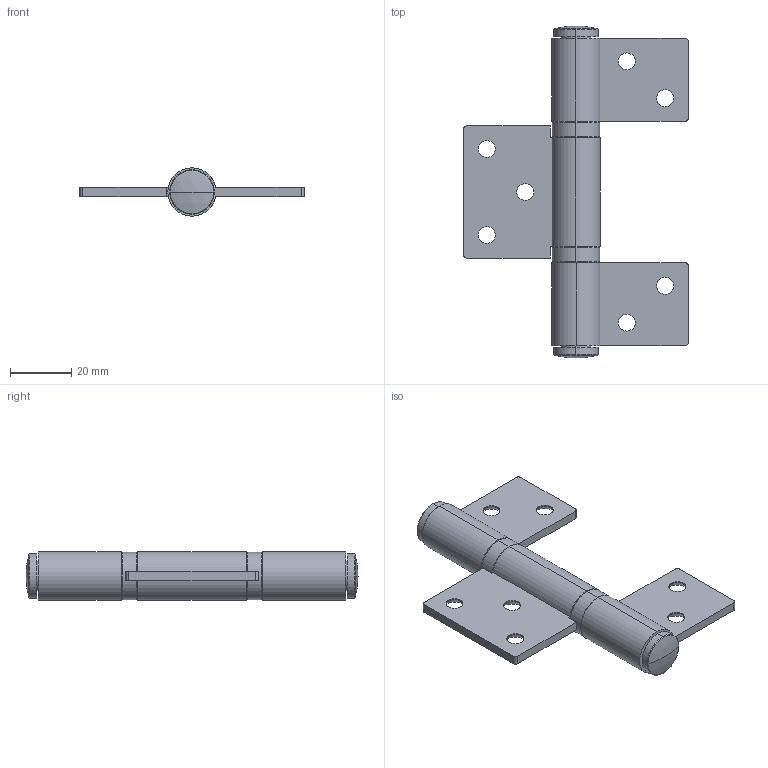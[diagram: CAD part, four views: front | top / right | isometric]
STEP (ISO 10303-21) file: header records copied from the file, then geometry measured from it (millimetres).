
FILE_DESCRIPTION (( 'STEP AP214' ), '1' );
FILE_NAME ('E3 Straight Hinge - Open.STEP', '2024-06-26T04:16:27', ( '' ), ( '' ), 'SwSTEP 2.0', 'SolidWorks 2023', '' );
FILE_SCHEMA (( 'AUTOMOTIVE_DESIGN' ));
Length unit declared in the file: millimetre
Products named in the file (5): E3 Straight Flap Outer B^E3 Straight Hinge; E3 Straight Hinge - Open; E3 Hinge Pin^E3 Straight Hinge; E3 Straight Flap Outer A^E3 Straight Hinge; E3 Straight flap middle^E3 Straight Hinge
Assembly tree (4 placements, depth 2):
  E3 Straight Hinge - Open
    E3 Hinge Pin^E3 Straight Hinge
    E3 Straight Flap Outer B^E3 Straight Hinge
    E3 Straight flap middle^E3 Straight Hinge
    E3 Straight Flap Outer A^E3 Straight Hinge
Bounding box: 73 x 108 x 15.7 mm (x, y, z)
Volume: 27480.2 mm3; surface area: 18300.3 mm2
Topology: 4 solids, 4 shells, 104 faces, 246 edges, 156 vertices
Faces by surface type: cylinder 49, plane 25, cone 22, torus 4, sphere 4
Entity records: 3228 total; most frequent: DIRECTION 604, CARTESIAN_POINT 513, ORIENTED_EDGE 492, AXIS2_PLACEMENT_3D 247, EDGE_CURVE 246, VERTEX_POINT 156, CIRCLE 136, EDGE_LOOP 130
